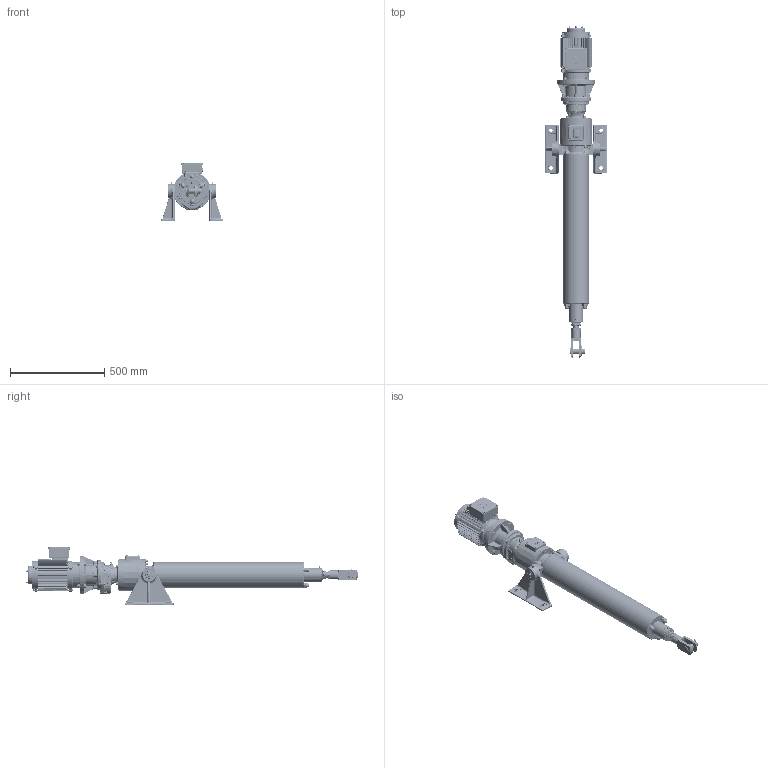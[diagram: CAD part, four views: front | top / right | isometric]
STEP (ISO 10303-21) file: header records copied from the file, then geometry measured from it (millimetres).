
FILE_DESCRIPTION( ( '153-599-4' ), '1' );
FILE_NAME( '//TOMOKO/Katalogbilder/RBs rendern/austausch pomplun/mit identnr/T1M6-0600-160-236-5.stp', 'Unknown', ( 'Christoph Hahmann' ), ( 'RACO-ELEKTRO-MASCHINEN GmbH' ), 'PSStep 17.0.49', 'Solid Edge ST 7', ' ' );
FILE_SCHEMA( ( 'AUTOMOTIVE_DESIGN { 1 0 10303 214 1 1 1 1 }' ) );
Length unit declared in the file: millimetre
Products named in the file (12): Assem1; 03.01-06 kpl; 02.14-06-0600; 01.15-06-0600; 02.01-06 kpl; 01.14-06 kpl2; 105-238-1 kpl; 01.01-06 Gabelkopf; 03.65-06-7; 10.02-04-08 105-983-12; 04.01-05-7-130; BGR 6-7
Assembly tree (12 placements, depth 2):
  Assem1
    03.01-06 kpl
    02.14-06-0600
    01.15-06-0600
    02.01-06 kpl
    01.14-06 kpl2
    105-238-1 kpl
    01.01-06 Gabelkopf
    03.65-06-7  x2
    10.02-04-08 105-983-12
    04.01-05-7-130
    BGR 6-7
Bounding box: 325 x 1758 x 309 mm (x, y, z)
Surface area: 2243397.6 mm2 (no closed solid volume)
Topology: 0 solids, 8238 shells, 8238 faces, 41231 edges, 39755 vertices
Faces by surface type: plane 3560, cylinder 2013, bspline 921, cone 673, torus 669, sphere 233, extrusion 164, revolution 5
Full cylindrical faces by diameter (mm): 1.6 x2, 2 x1, 2.459 x12, 3 x4, 3.242 x16, 4 x2, 4.02 x4, 4.134 x19, 4.5 x2, 4.773 x13, 4.917 x6, 5 x23, 5.3 x3, 5.4 x4, 5.5 x8, 5.7 x7, 6 x28, 6.47 x8, 6.6 x11, 6.647 x1, 6.8 x4, 7 x11, 7.33 x1, 7.5 x3, 8 x32, 8.15 x1, 8.2 x1, 8.376 x20, 8.4 x6, 8.9 x4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
Entity records: 580489 total; most frequent: CARTESIAN_POINT 224748, DIRECTION 62573, VERTEX_POINT 38543, ORIENTED_EDGE 38488, EDGE_CURVE 38488, AXIS2_PLACEMENT_3D 22688, VECTOR 17192, LINE 17028
